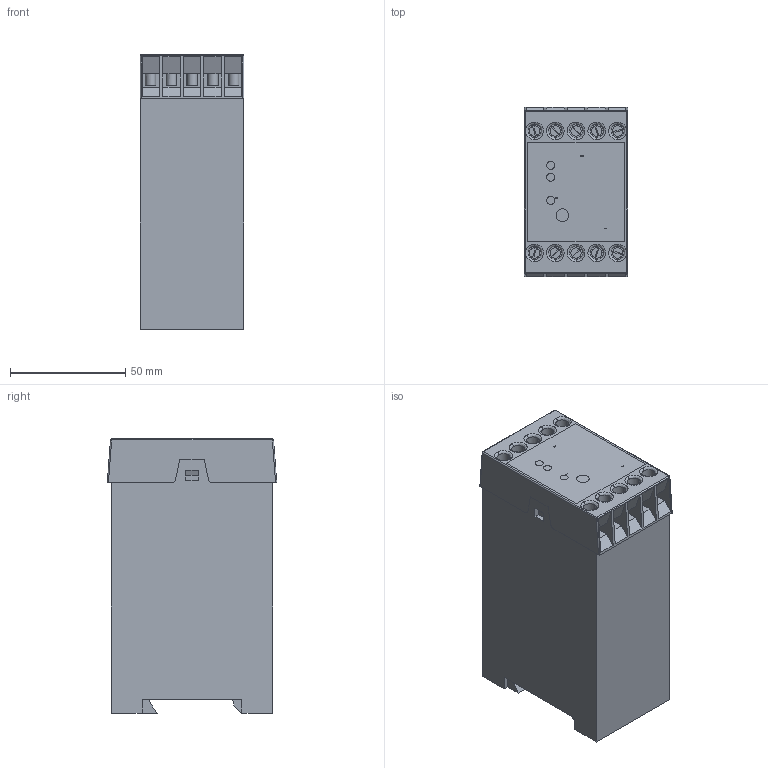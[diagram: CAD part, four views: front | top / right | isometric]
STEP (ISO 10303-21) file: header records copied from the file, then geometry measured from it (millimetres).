
FILE_DESCRIPTION (( 'STEP AP214' ), '1' );
FILE_NAME ('LEAKCOMP_1P.STEP', '2017-08-11T09:40:00', ( '' ), ( '' ), 'SwSTEP 2.0', 'SolidWorks 2017', '' );
FILE_SCHEMA (( 'AUTOMOTIVE_DESIGN' ));
Length unit declared in the file: millimetre
Products named in the file (20): LEAKCOMP_1P_41; LEAKCOMP_1P_40; LEAKCOMP_1P_39; LEAKCOMP_1P_38; LEAKCOMP_1P_37; LEAKCOMP_1P_36; LEAKCOMP_1P_35; LEAKCOMP_1P_34; LEAKCOMP_1P_33; LEAKCOMP_1P_32; LEAKCOMP_1P_31; LEAKCOMP_1P_30; LEAKCOMP_1P_4; LEAKCOMP_1P_3; LEAKCOMP_1P_1; LEAKCOMP_1P_45; LEAKCOMP_1P; LEAKCOMP_1P_44; LEAKCOMP_1P_43; LEAKCOMP_1P_42
Assembly tree (19 placements, depth 2):
  LEAKCOMP_1P
    LEAKCOMP_1P_1
    LEAKCOMP_1P_3
    LEAKCOMP_1P_4
    LEAKCOMP_1P_30
    LEAKCOMP_1P_31
    LEAKCOMP_1P_32
    LEAKCOMP_1P_33
    LEAKCOMP_1P_34
    LEAKCOMP_1P_35
    LEAKCOMP_1P_36
    LEAKCOMP_1P_37
    LEAKCOMP_1P_38
    LEAKCOMP_1P_39
    LEAKCOMP_1P_40
    LEAKCOMP_1P_41
    LEAKCOMP_1P_42
    LEAKCOMP_1P_43
    LEAKCOMP_1P_44
    LEAKCOMP_1P_45
Bounding box: 45 x 73.5 x 119.05 mm (x, y, z)
Volume: 358141.7 mm3; surface area: 49068.7 mm2
Topology: 12 solids, 23 shells, 291 faces, 734 edges, 494 vertices
Faces by surface type: plane 203, cylinder 64, bspline 24
Entity records: 13975 total; most frequent: CARTESIAN_POINT 3014, DIRECTION 1494, ORIENTED_EDGE 1440, EDGE_CURVE 734, LINE 506, VECTOR 506, VERTEX_POINT 494, AXIS2_PLACEMENT_3D 494
